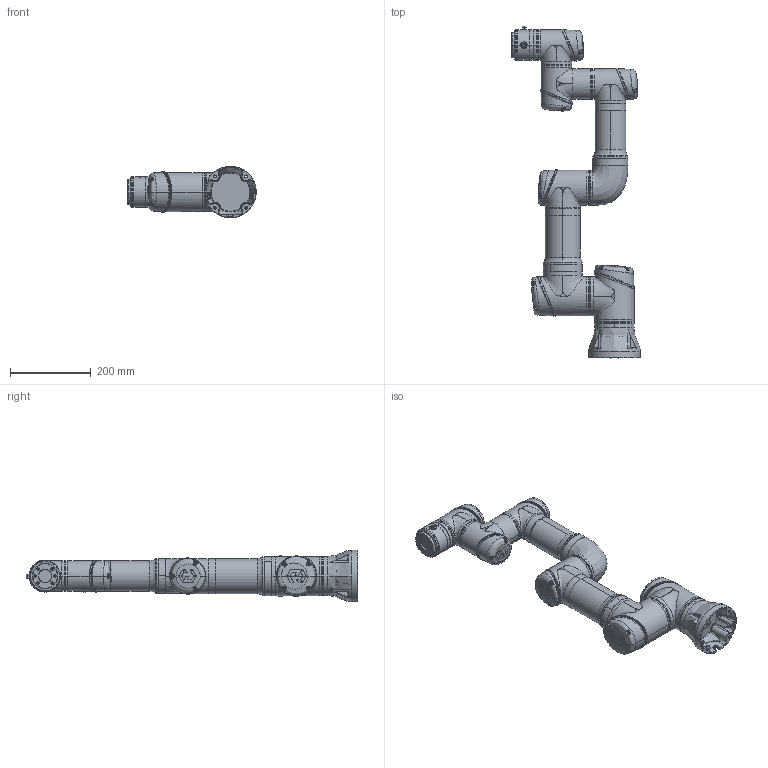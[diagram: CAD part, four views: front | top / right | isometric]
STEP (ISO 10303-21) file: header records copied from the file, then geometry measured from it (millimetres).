
FILE_DESCRIPTION (( 'STEP AP203' ), '1' );
FILE_NAME ('CS_掛极CS63F_V1.1.STEP', '2026-07-27T03:30:52', ( '' ), ( '' ), 'SwSTEP 2.0', 'SolidWorks 2017', '' );
FILE_SCHEMA (( 'CONFIG_CONTROL_DESIGN' ));
Length unit declared in the file: millimetre
Products named in the file (8): CS63F-J6; CS63F-Base; CS63F-J2_Link1_J3; CS63F-J5; CS63F_藺傷; CS63F-J1; CS63F-Link2A_Link2B_J4; CS_掛极CS63F_V1.1
Assembly tree (7 placements, depth 2):
  CS_掛极CS63F_V1.1
    CS63F-Base
    CS63F-J1
    CS63F-J2_Link1_J3
    CS63F-Link2A_Link2B_J4
    CS63F-J5
    CS63F-J6
    CS63F_藺傷
Bounding box: 318.82 x 824.5 x 127.7 mm (x, y, z)
Volume: 7962303.6 mm3; surface area: 726687.2 mm2
Topology: 73 solids, 86 shells, 5007 faces, 11878 edges, 7076 vertices
Faces by surface type: bspline 2326, plane 1155, cylinder 812, cone 360, sphere 182, torus 172
Entity records: 486921 total; most frequent: CARTESIAN_POINT 389666, ORIENTED_EDGE 23342, DIRECTION 15552, EDGE_CURVE 11671, VERTEX_POINT 7054, AXIS2_PLACEMENT_3D 6606, EDGE_LOOP 5307, FACE_OUTER_BOUND 5007
